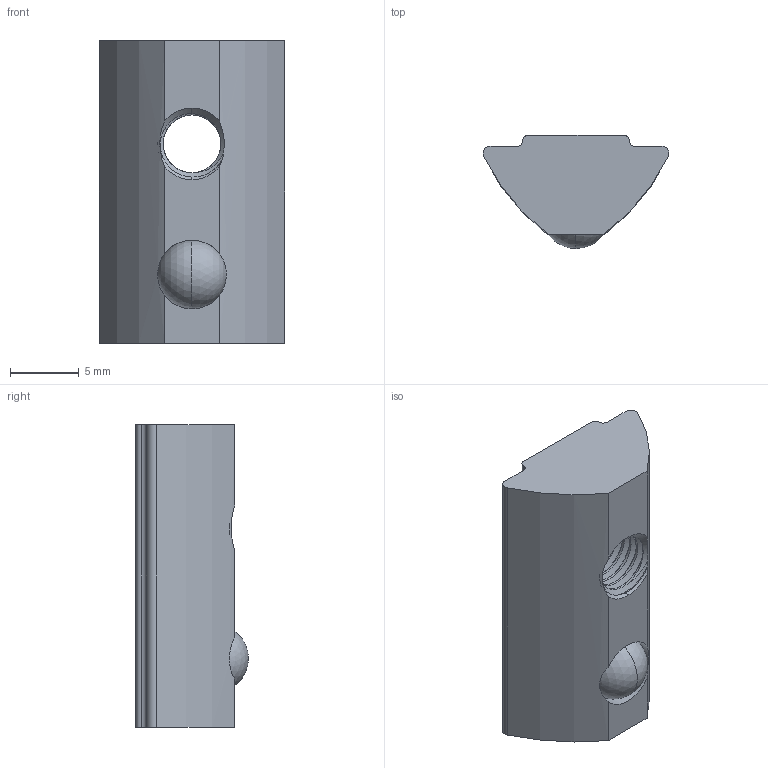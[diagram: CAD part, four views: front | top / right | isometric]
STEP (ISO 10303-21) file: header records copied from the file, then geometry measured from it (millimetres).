
FILE_DESCRIPTION (( 'STEP AP203' ), '1' );
FILE_NAME ('355029_Nutenstein 8 H=7,2 M5 einschwenkbar mit Kugel und Steg.step', '2022-11-24T09:08:55', ( '' ), ( '' ), 'SwSTEP 2.0', 'SolidWorks 2021', '' );
FILE_SCHEMA (( 'CONFIG_CONTROL_DESIGN' ));
Length unit declared in the file: millimetre
Products named in the file (1): 355029_Nutenstein 8 H=7,2 M5 einschwenkbar mit Kugel und Steg
Bounding box: 13.5 x 8.2 x 22 mm (x, y, z)
Volume: 1371.1 mm3; surface area: 1184.3 mm2
Topology: 2 solids, 2 shells, 49 faces, 145 edges, 97 vertices
Faces by surface type: cylinder 30, plane 9, cone 5, bspline 3, sphere 2
Entity records: 4633 total; most frequent: CARTESIAN_POINT 3387, ORIENTED_EDGE 280, DIRECTION 207, EDGE_CURVE 140, VERTEX_POINT 94, AXIS2_PLACEMENT_3D 79, EDGE_LOOP 50, ADVANCED_FACE 49
